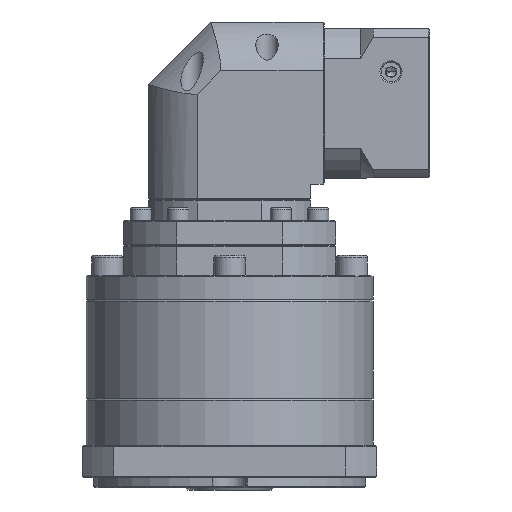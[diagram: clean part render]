
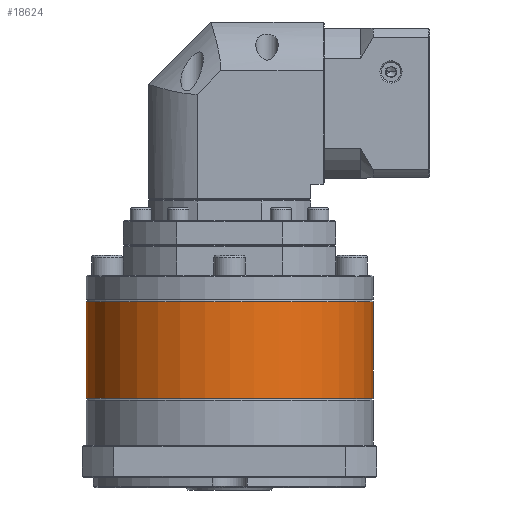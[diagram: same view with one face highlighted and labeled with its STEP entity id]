
A CAD part, front view. The second image highlights one B-rep face of the part: STEP entity #18624.
In plain terms, the highlighted cylindrical face has radius 57.5 mm (diameter 115 mm), a partial arc.
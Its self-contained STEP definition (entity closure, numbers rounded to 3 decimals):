
#1090 = VECTOR ( 'NONE', #49654, 1000. ) ;
#2932 = CARTESIAN_POINT ( 'NONE',  ( 76.294, 107.495, -65.457 ) ) ;
#7781 = DIRECTION ( 'NONE',  ( -1., 0., 0. ) ) ;
#12567 = CARTESIAN_POINT ( 'NONE',  ( 133.794, 107.495, -65.457 ) ) ;
#18624 = ADVANCED_FACE ( 'NONE', ( #74284 ), #85584, .T. ) ;
#18882 = LINE ( 'NONE', #90997, #1090 ) ;
#21649 = EDGE_CURVE ( 'NONE', #33773, #44041, #123495, .T. ) ;
#23449 = AXIS2_PLACEMENT_3D ( 'NONE', #131685, #60392, #58589 ) ;
#29323 = VERTEX_POINT ( 'NONE', #113642 ) ;
#33773 = VERTEX_POINT ( 'NONE', #103073 ) ;
#44041 = VERTEX_POINT ( 'NONE', #131964 ) ;
#49654 = DIRECTION ( 'NONE',  ( 0., 0., -1. ) ) ;
#53274 = DIRECTION ( 'NONE',  ( -1., 0., 0. ) ) ;
#58589 = DIRECTION ( 'NONE',  ( -1., 0., 0. ) ) ;
#59049 = CARTESIAN_POINT ( 'NONE',  ( 76.294, 107.495, -65.957 ) ) ;
#59392 = AXIS2_PLACEMENT_3D ( 'NONE', #2932, #75466, #53274 ) ;
#60392 = DIRECTION ( 'NONE',  ( 0., 0., 1. ) ) ;
#65947 = EDGE_LOOP ( 'NONE', ( #128722, #73541, #109162, #87968 ) ) ;
#73541 = ORIENTED_EDGE ( 'NONE', *, *, #98475, .T. ) ;
#74284 = FACE_OUTER_BOUND ( 'NONE', #65947, .T. ) ;
#74379 = VECTOR ( 'NONE', #95575, 1000. ) ;
#75466 = DIRECTION ( 'NONE',  ( 0., 0., -1. ) ) ;
#78710 = CARTESIAN_POINT ( 'NONE',  ( 18.794, 107.495, -65.957 ) ) ;
#85584 = CYLINDRICAL_SURFACE ( 'NONE', #59392, 57.5 ) ;
#87968 = ORIENTED_EDGE ( 'NONE', *, *, #21649, .T. ) ;
#89694 = VERTEX_POINT ( 'NONE', #78710 ) ;
#90997 = CARTESIAN_POINT ( 'NONE',  ( 18.794, 107.495, -65.457 ) ) ;
#95575 = DIRECTION ( 'NONE',  ( 0., 0., -1. ) ) ;
#98475 = EDGE_CURVE ( 'NONE', #29323, #89694, #105686, .T. ) ;
#100339 = DIRECTION ( 'NONE',  ( 0., 0., -1. ) ) ;
#103073 = CARTESIAN_POINT ( 'NONE',  ( 18.794, 107.495, -104.668 ) ) ;
#105686 = CIRCLE ( 'NONE', #127172, 57.5 ) ;
#109162 = ORIENTED_EDGE ( 'NONE', *, *, #115084, .T. ) ;
#113642 = CARTESIAN_POINT ( 'NONE',  ( 133.794, 107.495, -65.957 ) ) ;
#115084 = EDGE_CURVE ( 'NONE', #89694, #33773, #18882, .T. ) ;
#122498 = EDGE_CURVE ( 'NONE', #29323, #44041, #131153, .T. ) ;
#123495 = CIRCLE ( 'NONE', #23449, 57.5 ) ;
#127172 = AXIS2_PLACEMENT_3D ( 'NONE', #59049, #100339, #7781 ) ;
#128722 = ORIENTED_EDGE ( 'NONE', *, *, #122498, .F. ) ;
#131153 = LINE ( 'NONE', #12567, #74379 ) ;
#131685 = CARTESIAN_POINT ( 'NONE',  ( 76.294, 107.495, -104.668 ) ) ;
#131964 = CARTESIAN_POINT ( 'NONE',  ( 133.794, 107.495, -104.668 ) ) ;
